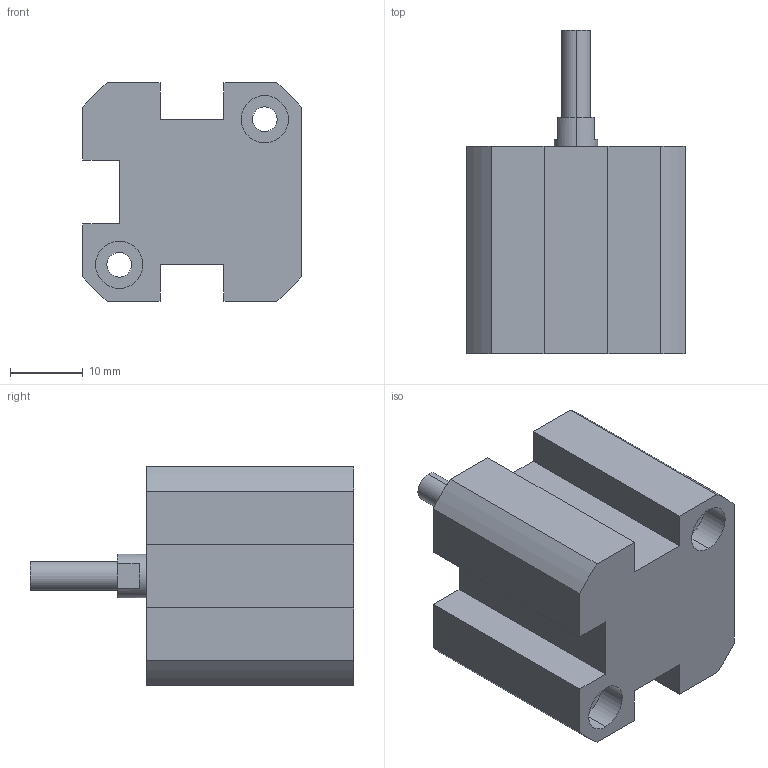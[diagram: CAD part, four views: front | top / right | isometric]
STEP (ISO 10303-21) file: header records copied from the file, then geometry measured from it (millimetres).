
FILE_DESCRIPTION (( 'STEP AP203' ), '1' );
FILE_NAME ('XC#M2-16-10.STEP', '2016-05-23T08:42:42', ( '' ), ( '' ), 'SwSTEP 2.0', 'SolidWorks 2014', '' );
FILE_SCHEMA (( 'CONFIG_CONTROL_DESIGN' ));
Length unit declared in the file: millimetre
Products named in the file (1): XC#M2-16-10
Bounding box: 30 x 44.5 x 30 mm (x, y, z)
Volume: 19997.3 mm3; surface area: 7019.6 mm2
Topology: 1 solids, 1 shells, 76 faces, 187 edges, 121 vertices
Faces by surface type: cylinder 39, plane 33, cone 4
Entity records: 2331 total; most frequent: DIRECTION 420, CARTESIAN_POINT 381, ORIENTED_EDGE 366, EDGE_CURVE 183, AXIS2_PLACEMENT_3D 160, VERTEX_POINT 121, LINE 100, VECTOR 100
